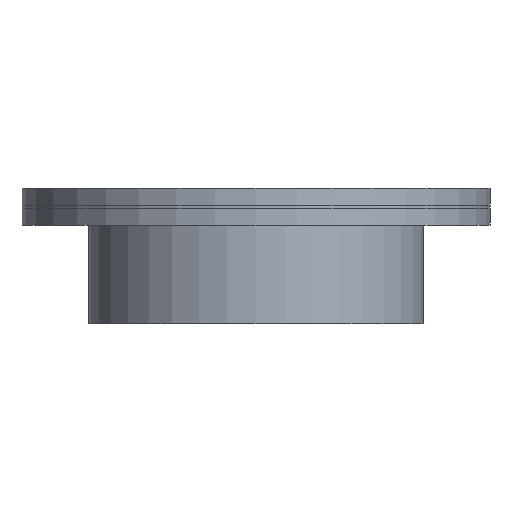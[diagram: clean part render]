
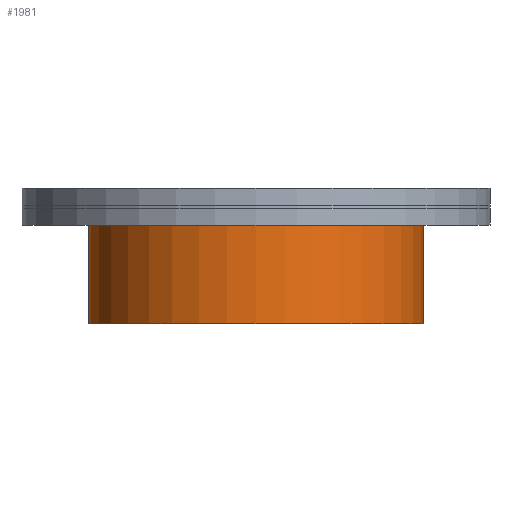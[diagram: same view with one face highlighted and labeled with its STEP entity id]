
A CAD part, front view. The second image highlights one B-rep face of the part: STEP entity #1981.
In plain terms, the highlighted cylindrical face has radius 25 mm (diameter 50 mm), a full revolution.
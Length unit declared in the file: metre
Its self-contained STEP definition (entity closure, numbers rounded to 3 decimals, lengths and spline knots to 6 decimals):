
#1949=CARTESIAN_POINT('',(0.,0.,0.));
#1950=DIRECTION('',(0.,0.,-1.));
#1951=DIRECTION('',(-1.,0.,-0.));
#1952=AXIS2_PLACEMENT_3D('',#1949,#1950,#1951);
#1953=CYLINDRICAL_SURFACE('',#1952,0.025);
#1954=CARTESIAN_POINT('',(-0.025,-0.,-0.));
#1955=VERTEX_POINT('',#1954);
#1956=CARTESIAN_POINT('',(-0.025,-0.,0.01475));
#1957=VERTEX_POINT('',#1956);
#1958=CARTESIAN_POINT('',(-0.025,0.,-0.));
#1959=DIRECTION('',(-0.,-0.,1.));
#1960=VECTOR('',#1959,0.01475);
#1961=LINE('',#1958,#1960);
#1962=EDGE_CURVE('',#1955,#1957,#1961,.T.);
#1963=ORIENTED_EDGE('',*,*,#1962,.T.);
#1964=CARTESIAN_POINT('',(-0.,0.,0.01475));
#1965=DIRECTION('',(0.,0.,-1.));
#1966=DIRECTION('',(-1.,0.,-0.));
#1967=AXIS2_PLACEMENT_3D('',#1964,#1965,#1966);
#1968=CIRCLE('',#1967,0.025);
#1969=EDGE_CURVE('389',#1957,#1957,#1968,.T.);
#1970=ORIENTED_EDGE('',*,*,#1969,.T.);
#1971=ORIENTED_EDGE('',*,*,#1962,.F.);
#1972=CARTESIAN_POINT('',(0.,0.,0.));
#1973=DIRECTION('',(0.,0.,-1.));
#1974=DIRECTION('',(-1.,0.,-0.));
#1975=AXIS2_PLACEMENT_3D('',#1972,#1973,#1974);
#1976=CIRCLE('',#1975,0.025);
#1977=EDGE_CURVE('377',#1955,#1955,#1976,.T.);
#1978=ORIENTED_EDGE('',*,*,#1977,.F.);
#1979=EDGE_LOOP('',(#1963,#1970,#1971,#1978));
#1980=FACE_BOUND('',#1979,.T.);
#1981=ADVANCED_FACE('482',(#1980),#1953,.T.);
